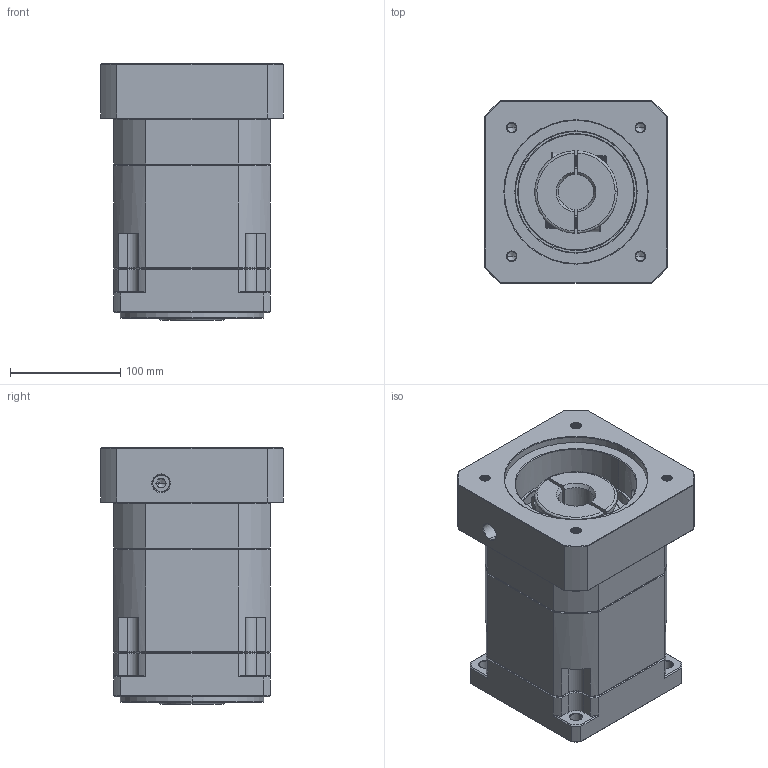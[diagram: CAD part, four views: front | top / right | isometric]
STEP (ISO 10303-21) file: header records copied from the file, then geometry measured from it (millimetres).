
FILE_DESCRIPTION (( 'STEP AP214' ), '1' );
FILE_NAME ('ZB142A-K35-L2-P2-32-130-165-M10.step', '2023-09-01T11:47:14', ( '' ), ( '' ), 'SwSTEP 2.0', 'SolidWorks 2016', '' );
FILE_SCHEMA (( 'AUTOMOTIVE_DESIGN' ));
Length unit declared in the file: millimetre
Products named in the file (1): ZB142A-K35-L2-P2-32-130-165-M10
Bounding box: 166 x 166 x 233.2 mm (x, y, z)
Volume: 4177115 mm3; surface area: 318911.9 mm2
Topology: 6 solids, 6 shells, 2261 faces, 6066 edges, 3908 vertices
Faces by surface type: plane 1096, bspline 404, cylinder 395, cone 346, torus 20
Entity records: 122861 total; most frequent: CARTESIAN_POINT 44497, ORIENTED_EDGE 12076, DIRECTION 9601, EDGE_CURVE 6038, VERTEX_POINT 3908, LINE 3847, VECTOR 3847, AXIS2_PLACEMENT_3D 2877
